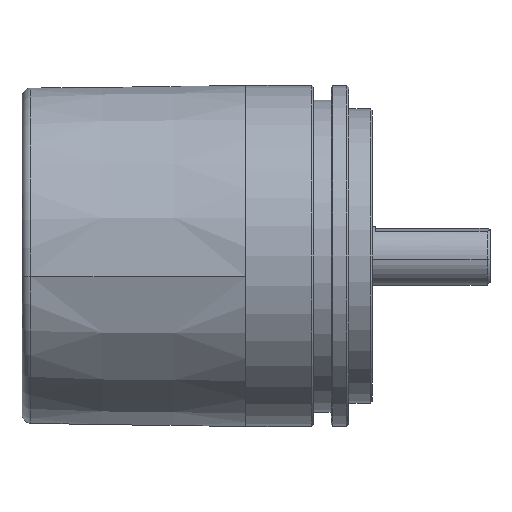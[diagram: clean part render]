
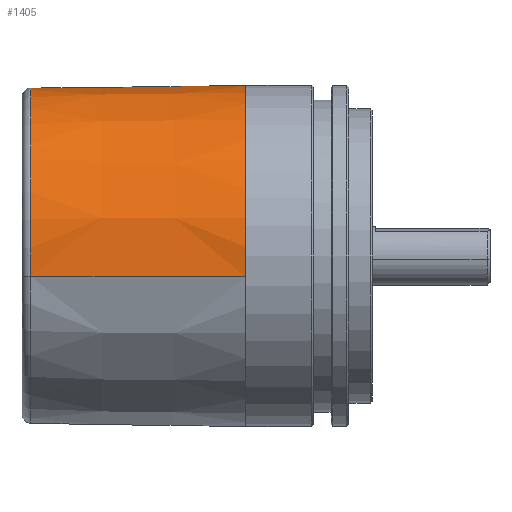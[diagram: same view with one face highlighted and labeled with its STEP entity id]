
A CAD part, front view. The second image highlights one B-rep face of the part: STEP entity #1405.
In plain terms, the highlighted conical face has half-angle 0.75 degrees and reference radius 29 mm.
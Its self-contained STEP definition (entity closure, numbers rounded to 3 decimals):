
#195 = CARTESIAN_POINT ( 'NONE',  ( -2.48, 28.654, 3.518 ) ) ;
#198 = CARTESIAN_POINT ( 'NONE',  ( -2.48, 24.354, 15.503 ) ) ;
#574 = VERTEX_POINT ( 'NONE', #195 ) ;
#578 = VERTEX_POINT ( 'NONE', #198 ) ;
#1405 = ADVANCED_FACE ( 'NONE', ( #12203 ), #12221, .T. ) ;
#1775 = AXIS2_PLACEMENT_3D ( 'NONE', #15322, #15323, #15324 ) ;
#3804 = EDGE_LOOP ( 'NONE', ( #5147, #5146, #5151, #5145, #5150, #5153, #5152 ) ) ;
#5145 = ORIENTED_EDGE ( 'NONE', *, *, #23256, .T. ) ;
#5146 = ORIENTED_EDGE ( 'NONE', *, *, #7274, .T. ) ;
#5147 = ORIENTED_EDGE ( 'NONE', *, *, #23050, .F. ) ;
#5150 = ORIENTED_EDGE ( 'NONE', *, *, #23071, .T. ) ;
#5151 = ORIENTED_EDGE ( 'NONE', *, *, #24789, .F. ) ;
#5152 = ORIENTED_EDGE ( 'NONE', *, *, #23262, .T. ) ;
#5153 = ORIENTED_EDGE ( 'NONE', *, *, #7220, .T. ) ;
#6507 = VERTEX_POINT ( 'NONE', #14597 ) ;
#7220 = EDGE_CURVE ( 'NONE', #24984, #10552, #13960, .T. ) ;
#7274 = EDGE_CURVE ( 'NONE', #574, #578, #14020, .T. ) ;
#8261 = AXIS2_PLACEMENT_3D ( 'NONE', #12897, #12896, #12892 ) ;
#10550 = VERTEX_POINT ( 'NONE', #17782 ) ;
#10552 = VERTEX_POINT ( 'NONE', #17793 ) ;
#12203 = FACE_OUTER_BOUND ( 'NONE', #3804, .T. ) ;
#12221 = CONICAL_SURFACE ( 'NONE', #8261, 29., 0.013 ) ;
#12892 = DIRECTION ( 'NONE',  ( 0., -0.993, -0.122 ) ) ;
#12896 = DIRECTION ( 'NONE',  ( 1., 0., 0. ) ) ;
#12897 = CARTESIAN_POINT ( 'NONE',  ( 7.5, 0., 0. ) ) ;
#13960 = LINE ( 'NONE', #14999, #13965 ) ;
#13965 = VECTOR ( 'NONE', #15002, 1000. ) ;
#14020 = CIRCLE ( 'NONE', #1775, 28.869 ) ;
#14597 = CARTESIAN_POINT ( 'NONE',  ( -5.48, 22.134, 18.473 ) ) ;
#14999 = CARTESIAN_POINT ( 'NONE',  ( 7.5, -28.784, -3.534 ) ) ;
#15002 = DIRECTION ( 'NONE',  ( 1., -0.013, -0.002 ) ) ;
#15322 = CARTESIAN_POINT ( 'NONE',  ( -2.48, 0., 0. ) ) ;
#15323 = DIRECTION ( 'NONE',  ( 1., 0., 0. ) ) ;
#15324 = DIRECTION ( 'NONE',  ( 0., 0.993, 0.122 ) ) ;
#17070 = CARTESIAN_POINT ( 'NONE',  ( -29.02, 21.722, 18.484 ) ) ;
#17071 = CARTESIAN_POINT ( 'NONE',  ( -29.02, -28.309, -3.476 ) ) ;
#17782 = CARTESIAN_POINT ( 'NONE',  ( 7.5, 28.784, 3.534 ) ) ;
#17793 = CARTESIAN_POINT ( 'NONE',  ( 7.5, -28.784, -3.534 ) ) ;
#18318 = LINE ( 'NONE', #19084, #18324 ) ;
#18324 = VECTOR ( 'NONE', #19111, 1000. ) ;
#18350 = CIRCLE ( 'NONE', #21209, 28.522 ) ;
#18575 = CIRCLE ( 'NONE', #20576, 29. ) ;
#19084 = CARTESIAN_POINT ( 'NONE',  ( 7.5, 28.784, 3.534 ) ) ;
#19111 = DIRECTION ( 'NONE',  ( 1., 0.013, 0.002 ) ) ;
#19168 = CARTESIAN_POINT ( 'NONE',  ( -29.02, 0., 0. ) ) ;
#19169 = DIRECTION ( 'NONE',  ( 1., 0., 0. ) ) ;
#19170 = DIRECTION ( 'NONE',  ( 0., 0.993, 0.122 ) ) ;
#19763 = CARTESIAN_POINT ( 'NONE',  ( -5.48, 22.134, 18.473 ) ) ;
#19764 = CARTESIAN_POINT ( 'NONE',  ( -6.48, 22.116, 18.474 ) ) ;
#19771 = CARTESIAN_POINT ( 'NONE',  ( -7.48, 22.099, 18.474 ) ) ;
#19772 = CARTESIAN_POINT ( 'NONE',  ( -8.48, 22.082, 18.475 ) ) ;
#19773 = CARTESIAN_POINT ( 'NONE',  ( -12.479, 22.012, 18.477 ) ) ;
#19774 = CARTESIAN_POINT ( 'NONE',  ( -16.479, 21.942, 18.478 ) ) ;
#19775 = CARTESIAN_POINT ( 'NONE',  ( -20.478, 21.872, 18.48 ) ) ;
#19776 = CARTESIAN_POINT ( 'NONE',  ( -23.325, 21.822, 18.482 ) ) ;
#19777 = CARTESIAN_POINT ( 'NONE',  ( -26.172, 21.772, 18.483 ) ) ;
#19778 = CARTESIAN_POINT ( 'NONE',  ( -29.02, 21.722, 18.484 ) ) ;
#19793 = CARTESIAN_POINT ( 'NONE',  ( 7.5, 0., 0. ) ) ;
#19794 = DIRECTION ( 'NONE',  ( -1., 0., 0. ) ) ;
#19795 = DIRECTION ( 'NONE',  ( 0., 0.993, 0.122 ) ) ;
#20576 = AXIS2_PLACEMENT_3D ( 'NONE', #19793, #19794, #19795 ) ;
#21209 = AXIS2_PLACEMENT_3D ( 'NONE', #19168, #19169, #19170 ) ;
#23050 = EDGE_CURVE ( 'NONE', #574, #10550, #18318, .T. ) ;
#23071 = EDGE_CURVE ( 'NONE', #24983, #24984, #18350, .T. ) ;
#23256 = EDGE_CURVE ( 'NONE', #6507, #24983, #25118, .T. ) ;
#23262 = EDGE_CURVE ( 'NONE', #10552, #10550, #18575, .T. ) ;
#23911 = CARTESIAN_POINT ( 'NONE',  ( -5.48, 22.134, 18.473 ) ) ;
#23912 = CARTESIAN_POINT ( 'NONE',  ( -5.258, 22.138, 18.473 ) ) ;
#23917 = CARTESIAN_POINT ( 'NONE',  ( -5.038, 22.162, 18.448 ) ) ;
#23918 = CARTESIAN_POINT ( 'NONE',  ( -4.617, 22.247, 18.355 ) ) ;
#23919 = CARTESIAN_POINT ( 'NONE',  ( -4.417, 22.307, 18.287 ) ) ;
#23920 = CARTESIAN_POINT ( 'NONE',  ( -4.037, 22.454, 18.113 ) ) ;
#23921 = CARTESIAN_POINT ( 'NONE',  ( -3.864, 22.54, 18.01 ) ) ;
#23922 = CARTESIAN_POINT ( 'NONE',  ( -3.545, 22.729, 17.777 ) ) ;
#23923 = CARTESIAN_POINT ( 'NONE',  ( -3.399, 22.834, 17.646 ) ) ;
#23924 = CARTESIAN_POINT ( 'NONE',  ( -3.141, 23.051, 17.368 ) ) ;
#23925 = CARTESIAN_POINT ( 'NONE',  ( -3.029, 23.163, 17.22 ) ) ;
#23926 = CARTESIAN_POINT ( 'NONE',  ( -2.834, 23.395, 16.909 ) ) ;
#23927 = CARTESIAN_POINT ( 'NONE',  ( -2.75, 23.515, 16.743 ) ) ;
#23928 = CARTESIAN_POINT ( 'NONE',  ( -2.549, 23.877, 16.231 ) ) ;
#23929 = CARTESIAN_POINT ( 'NONE',  ( -2.48, 24.117, 15.875 ) ) ;
#23930 = CARTESIAN_POINT ( 'NONE',  ( -2.48, 24.354, 15.503 ) ) ;
#24789 = EDGE_CURVE ( 'NONE', #6507, #578, #25320, .T. ) ;
#24983 = VERTEX_POINT ( 'NONE', #17070 ) ;
#24984 = VERTEX_POINT ( 'NONE', #17071 ) ;
#25118 = B_SPLINE_CURVE_WITH_KNOTS ( 'NONE', 3,
 ( #19763, #19764, #19771, #19772, #19773, #19774, #19775, #19776, #19777, #19778 ),
 .UNSPECIFIED., .F., .F.,
 ( 4, 3, 3, 4 ),
 ( 0., 0.003, 0.015, 0.024 ),
 .UNSPECIFIED. ) ;
#25320 = B_SPLINE_CURVE_WITH_KNOTS ( 'NONE', 3,
 ( #23911, #23912, #23917, #23918, #23919, #23920, #23921, #23922, #23923, #23924, #23925, #23926, #23927, #23928, #23929, #23930 ),
 .UNSPECIFIED., .F., .F.,
 ( 4, 2, 2, 2, 2, 2, 2, 4 ),
 ( 0., 0.001, 0.001, 0.002, 0.003, 0.003, 0.004, 0.005 ),
 .UNSPECIFIED. ) ;
